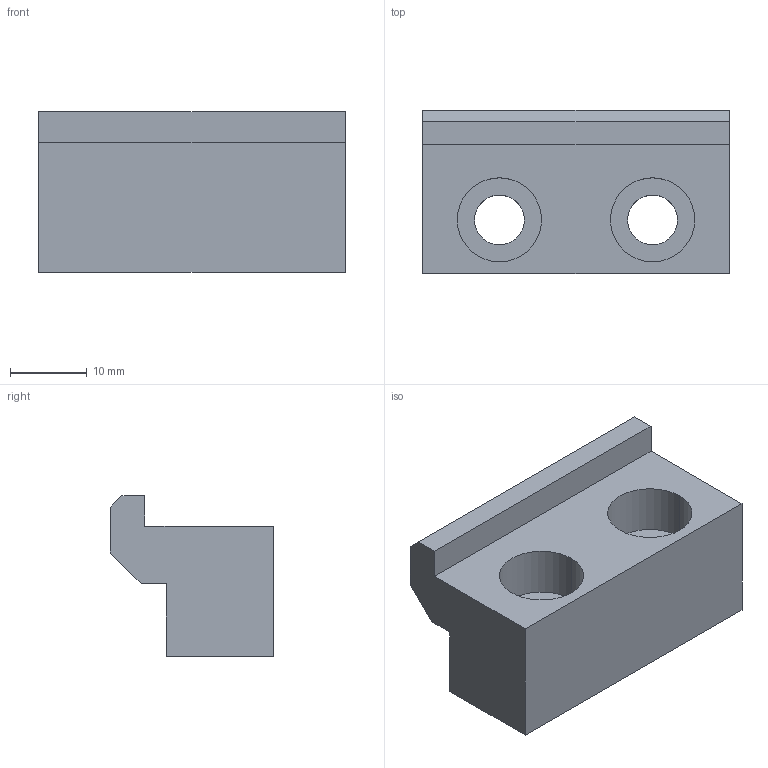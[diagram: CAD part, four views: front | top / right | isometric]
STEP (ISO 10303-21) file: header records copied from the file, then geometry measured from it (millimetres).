
FILE_DESCRIPTION((''),'2;1');
FILE_NAME('MB-46','2017-03-31T',('Owner'),(''),'PRO/ENGINEER BY PARAMETRIC TECHNOLOGY CORPORATION, 2009440','PRO/ENGINEER BY PARAMETRIC TECHNOLOGY CORPORATION, 2009440','');
FILE_SCHEMA(('CONFIG_CONTROL_DESIGN'));
Length unit declared in the file: millimetre
Products named in the file (1): MB-46
Bounding box: 40 x 21.3 x 21 mm (x, y, z)
Volume: 10132.7 mm3; surface area: 4603.7 mm2
Topology: 1 solids, 1 shells, 22 faces, 54 edges, 36 vertices
Faces by surface type: plane 14, cylinder 8
Entity records: 700 total; most frequent: DIRECTION 114, CARTESIAN_POINT 112, ORIENTED_EDGE 108, EDGE_CURVE 54, VECTOR 38, LINE 38, AXIS2_PLACEMENT_3D 38, VERTEX_POINT 36
